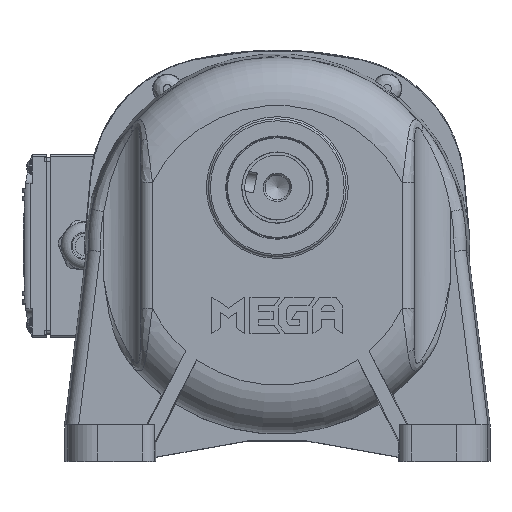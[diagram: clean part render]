
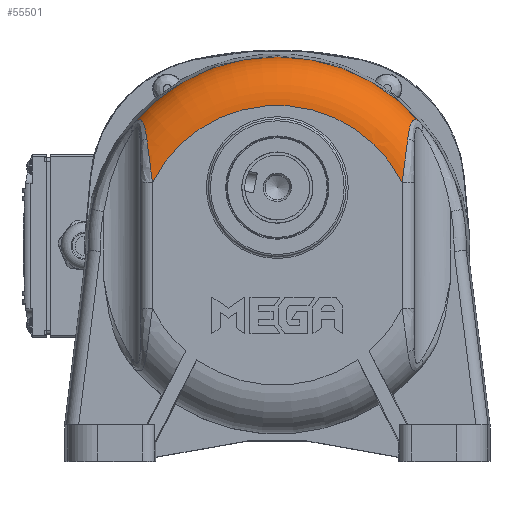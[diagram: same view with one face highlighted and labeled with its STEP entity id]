
A CAD part, top view. The second image highlights one B-rep face of the part: STEP entity #55501.
In plain terms, the highlighted toroidal (fillet/blend) face has major radius 69.054 mm and minor radius 24 mm.
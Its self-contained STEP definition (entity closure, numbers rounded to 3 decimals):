
#483=TOROIDAL_SURFACE('',#59802,69.054,24.);
#1050=B_SPLINE_CURVE_WITH_KNOTS('',3,(#89997,#89998,#89999,#90000,#90001),
 .UNSPECIFIED.,.F.,.F.,(4,1,4),(-1.959,-0.839,0.),
 .UNSPECIFIED.);
#1051=B_SPLINE_CURVE_WITH_KNOTS('',3,(#90005,#90006,#90007,#90008,#90009,
#90010),.UNSPECIFIED.,.F.,.F.,(4,1,1,4),(-1.959,-1.399,
-0.839,0.),.UNSPECIFIED.);
#1052=B_SPLINE_CURVE_WITH_KNOTS('',3,(#90012,#90013,#90014,#90015,#90016,
#90017,#90018,#90019,#90020,#90021),.UNSPECIFIED.,.F.,.F.,(4,1,1,1,1,1,
1,4),(-1.905,-1.633,-1.361,-1.089,
-0.816,-0.544,-0.272,0.),
 .UNSPECIFIED.);
#1053=B_SPLINE_CURVE_WITH_KNOTS('',3,(#90024,#90025,#90026,#90027,#90028,
#90029,#90030,#90031,#90032),.UNSPECIFIED.,.F.,.F.,(4,1,1,1,1,1,4),(-1.905,
-1.633,-1.361,-1.089,-0.817,
-0.544,0.),.UNSPECIFIED.);
#8572=FACE_OUTER_BOUND('',#12039,.T.);
#12039=EDGE_LOOP('',(#42252,#42253,#42254,#42255,#42256,#42257));
#21648=CIRCLE('',#59803,69.054);
#21649=CIRCLE('',#59804,93.046);
#25718=VERTEX_POINT('',#89995);
#25719=VERTEX_POINT('',#89996);
#25720=VERTEX_POINT('',#90002);
#25721=VERTEX_POINT('',#90004);
#25722=VERTEX_POINT('',#90011);
#25723=VERTEX_POINT('',#90022);
#31674=EDGE_CURVE('',#25718,#25719,#1050,.T.);
#31675=EDGE_CURVE('',#25718,#25720,#21648,.T.);
#31676=EDGE_CURVE('',#25721,#25720,#1051,.T.);
#31677=EDGE_CURVE('',#25722,#25721,#1052,.T.);
#31678=EDGE_CURVE('',#25723,#25722,#21649,.F.);
#31679=EDGE_CURVE('',#25719,#25723,#1053,.T.);
#42252=ORIENTED_EDGE('',*,*,#31674,.F.);
#42253=ORIENTED_EDGE('',*,*,#31675,.T.);
#42254=ORIENTED_EDGE('',*,*,#31676,.F.);
#42255=ORIENTED_EDGE('',*,*,#31677,.F.);
#42256=ORIENTED_EDGE('',*,*,#31678,.F.);
#42257=ORIENTED_EDGE('',*,*,#31679,.F.);
#55501=ADVANCED_FACE('',(#8572),#483,.T.);
#59802=AXIS2_PLACEMENT_3D('',#89994,#69119,#69120);
#59803=AXIS2_PLACEMENT_3D('',#90003,#69121,#69122);
#59804=AXIS2_PLACEMENT_3D('',#90023,#69123,#69124);
#69119=DIRECTION('center_axis',(0.,0.,-1.));
#69120=DIRECTION('ref_axis',(-1.,0.,0.));
#69121=DIRECTION('center_axis',(0.,0.,-1.));
#69122=DIRECTION('ref_axis',(-1.,0.,0.));
#69123=DIRECTION('center_axis',(0.,0.,1.));
#69124=DIRECTION('ref_axis',(-1.,0.,0.));
#89994=CARTESIAN_POINT('Origin',(-11.724,7.566,52.5));
#89995=CARTESIAN_POINT('',(-73.356,38.709,76.5));
#89996=CARTESIAN_POINT('',(-76.142,60.104,71.942));
#89997=CARTESIAN_POINT('Ctrl Pts',(-73.356,38.709,76.5));
#89998=CARTESIAN_POINT('Ctrl Pts',(-73.857,42.692,76.5));
#89999=CARTESIAN_POINT('Ctrl Pts',(-74.804,49.882,75.966));
#90000=CARTESIAN_POINT('Ctrl Pts',(-75.758,57.155,73.506));
#90001=CARTESIAN_POINT('Ctrl Pts',(-76.142,60.104,71.942));
#90002=CARTESIAN_POINT('',(49.909,38.709,76.5));
#90003=CARTESIAN_POINT('Origin',(-11.724,7.566,76.5));
#90004=CARTESIAN_POINT('',(52.695,60.104,71.942));
#90005=CARTESIAN_POINT('Ctrl Pts',(52.695,60.104,71.942));
#90006=CARTESIAN_POINT('Ctrl Pts',(52.438,58.138,72.985));
#90007=CARTESIAN_POINT('Ctrl Pts',(51.902,54.042,74.621));
#90008=CARTESIAN_POINT('Ctrl Pts',(50.949,46.798,76.208));
#90009=CARTESIAN_POINT('Ctrl Pts',(50.284,41.697,76.5));
#90010=CARTESIAN_POINT('Ctrl Pts',(49.909,38.709,76.5));
#90011=CARTESIAN_POINT('',(59.45,67.497,53.128));
#90012=CARTESIAN_POINT('Ctrl Pts',(59.45,67.497,53.128));
#90013=CARTESIAN_POINT('Ctrl Pts',(58.963,68.043,53.922));
#90014=CARTESIAN_POINT('Ctrl Pts',(57.975,68.999,55.663));
#90015=CARTESIAN_POINT('Ctrl Pts',(56.516,69.72,58.791));
#90016=CARTESIAN_POINT('Ctrl Pts',(55.231,69.342,62.229));
#90017=CARTESIAN_POINT('Ctrl Pts',(54.267,67.822,65.454));
#90018=CARTESIAN_POINT('Ctrl Pts',(53.588,65.578,68.137));
#90019=CARTESIAN_POINT('Ctrl Pts',(53.089,62.961,70.284));
#90020=CARTESIAN_POINT('Ctrl Pts',(52.819,61.059,71.434));
#90021=CARTESIAN_POINT('Ctrl Pts',(52.695,60.104,71.942));
#90022=CARTESIAN_POINT('',(-82.898,67.497,53.128));
#90023=CARTESIAN_POINT('Origin',(-11.724,7.566,53.128));
#90024=CARTESIAN_POINT('Ctrl Pts',(-76.142,60.104,71.942));
#90025=CARTESIAN_POINT('Ctrl Pts',(-76.267,61.06,71.434));
#90026=CARTESIAN_POINT('Ctrl Pts',(-76.536,62.958,70.286));
#90027=CARTESIAN_POINT('Ctrl Pts',(-77.035,65.574,68.142));
#90028=CARTESIAN_POINT('Ctrl Pts',(-77.713,67.815,65.461));
#90029=CARTESIAN_POINT('Ctrl Pts',(-78.672,69.337,62.252));
#90030=CARTESIAN_POINT('Ctrl Pts',(-80.394,69.846,57.637));
#90031=CARTESIAN_POINT('Ctrl Pts',(-81.924,68.59,54.716));
#90032=CARTESIAN_POINT('Ctrl Pts',(-82.898,67.497,53.128));
